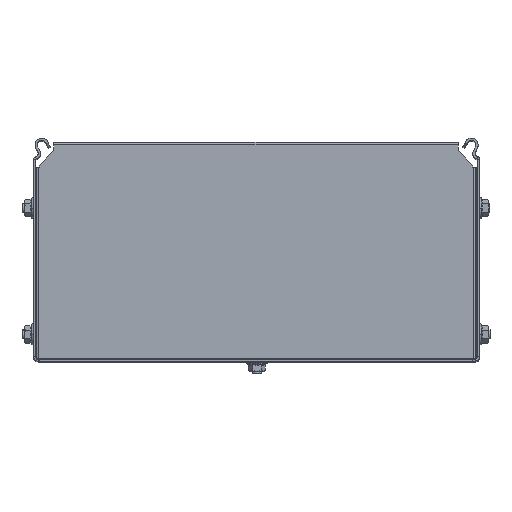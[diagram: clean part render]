
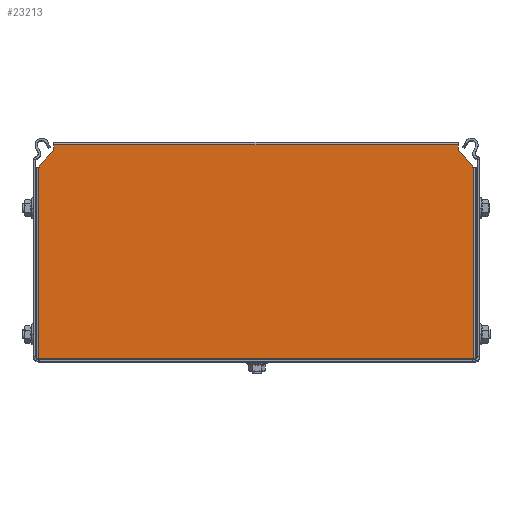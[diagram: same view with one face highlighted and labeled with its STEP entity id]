
A CAD part, top view. The second image highlights one B-rep face of the part: STEP entity #23213.
In plain terms, the highlighted planar face has unit normal (0, 0, 1) as drawn and (0, 0, -1) by its records, which use the part's own axes.
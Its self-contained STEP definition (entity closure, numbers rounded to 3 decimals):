
#35 = EDGE_LOOP ( 'NONE', ( #8196, #18314, #18529, #16453, #8886, #5079, #6379, #1964, #15107, #1273, #22720, #2898, #9541, #23069, #879, #7709 ) ) ;
#190 = DIRECTION ( 'NONE',  ( 0., -1., 0. ) ) ;
#223 = VERTEX_POINT ( 'NONE', #17630 ) ;
#255 = VERTEX_POINT ( 'NONE', #22700 ) ;
#478 = CARTESIAN_POINT ( 'NONE',  ( 281.91, 175.47, 0. ) ) ;
#500 = CARTESIAN_POINT ( 'NONE',  ( 0., 131.72, 0. ) ) ;
#511 = DIRECTION ( 'NONE',  ( 0., 1., 0. ) ) ;
#639 = VECTOR ( 'NONE', #10130, 1000. ) ;
#879 = ORIENTED_EDGE ( 'NONE', *, *, #13830, .F. ) ;
#885 = CARTESIAN_POINT ( 'NONE',  ( 291.91, 131.72, 0. ) ) ;
#1005 = VERTEX_POINT ( 'NONE', #10743 ) ;
#1112 = LINE ( 'NONE', #6259, #11071 ) ;
#1273 = ORIENTED_EDGE ( 'NONE', *, *, #17318, .F. ) ;
#1728 = EDGE_CURVE ( 'NONE', #20100, #2352, #23543, .T. ) ;
#1964 = ORIENTED_EDGE ( 'NONE', *, *, #4885, .F. ) ;
#2352 = VERTEX_POINT ( 'NONE', #16965 ) ;
#2651 = LINE ( 'NONE', #500, #7916 ) ;
#2845 = VECTOR ( 'NONE', #23074, 1000. ) ;
#2898 = ORIENTED_EDGE ( 'NONE', *, *, #6683, .F. ) ;
#2960 = VERTEX_POINT ( 'NONE', #19698 ) ;
#3246 = VERTEX_POINT ( 'NONE', #885 ) ;
#3469 = VERTEX_POINT ( 'NONE', #3506 ) ;
#3506 = CARTESIAN_POINT ( 'NONE',  ( 0., 1.06, 0. ) ) ;
#4616 = CARTESIAN_POINT ( 'NONE',  ( 291.91, 130.47, 0. ) ) ;
#4885 = EDGE_CURVE ( 'NONE', #223, #5189, #14028, .T. ) ;
#5041 = DIRECTION ( 'NONE',  ( -1., 0., 0. ) ) ;
#5072 = DIRECTION ( 'NONE',  ( 1., 0., 0. ) ) ;
#5079 = ORIENTED_EDGE ( 'NONE', *, *, #14181, .F. ) ;
#5189 = VERTEX_POINT ( 'NONE', #9340 ) ;
#5485 = VECTOR ( 'NONE', #20542, 1000. ) ;
#5648 = LINE ( 'NONE', #21980, #639 ) ;
#5889 = EDGE_CURVE ( 'NONE', #1005, #3469, #22628, .T. ) ;
#6259 = CARTESIAN_POINT ( 'NONE',  ( 291.91, 0., 0. ) ) ;
#6263 = AXIS2_PLACEMENT_3D ( 'NONE', #12922, #16899, #5041 ) ;
#6379 = ORIENTED_EDGE ( 'NONE', *, *, #8861, .F. ) ;
#6683 = EDGE_CURVE ( 'NONE', #2960, #3246, #13308, .T. ) ;
#6831 = VECTOR ( 'NONE', #13722, 1000. ) ;
#7029 = EDGE_CURVE ( 'NONE', #2352, #8617, #15154, .T. ) ;
#7709 = ORIENTED_EDGE ( 'NONE', *, *, #19155, .F. ) ;
#7916 = VECTOR ( 'NONE', #16360, 1000. ) ;
#8196 = ORIENTED_EDGE ( 'NONE', *, *, #21636, .F. ) ;
#8240 = DIRECTION ( 'NONE',  ( 0., -1., 0. ) ) ;
#8345 = CARTESIAN_POINT ( 'NONE',  ( 0., 131.72, 0. ) ) ;
#8617 = VERTEX_POINT ( 'NONE', #17504 ) ;
#8861 = EDGE_CURVE ( 'NONE', #5189, #20639, #2651, .T. ) ;
#8886 = ORIENTED_EDGE ( 'NONE', *, *, #1728, .F. ) ;
#9235 = LINE ( 'NONE', #478, #24414 ) ;
#9290 = LINE ( 'NONE', #13183, #25077 ) ;
#9340 = CARTESIAN_POINT ( 'NONE',  ( 10., 141.72, 0. ) ) ;
#9426 = CARTESIAN_POINT ( 'NONE',  ( 0., 130.47, 0. ) ) ;
#9512 = DIRECTION ( 'NONE',  ( 0., -1., 0. ) ) ;
#9541 = ORIENTED_EDGE ( 'NONE', *, *, #23115, .F. ) ;
#9759 = CARTESIAN_POINT ( 'NONE',  ( 0., 1.25, 0. ) ) ;
#9890 = VECTOR ( 'NONE', #9512, 1000. ) ;
#10006 = VERTEX_POINT ( 'NONE', #13050 ) ;
#10091 = CARTESIAN_POINT ( 'NONE',  ( 292.35, 1.25, 0. ) ) ;
#10130 = DIRECTION ( 'NONE',  ( 1., 0., 0. ) ) ;
#10743 = CARTESIAN_POINT ( 'NONE',  ( 0., 1.25, 0. ) ) ;
#10774 = LINE ( 'NONE', #4616, #5485 ) ;
#10803 = VECTOR ( 'NONE', #5072, 1000. ) ;
#10919 = CARTESIAN_POINT ( 'NONE',  ( 281.91, 141.72, 0. ) ) ;
#11071 = VECTOR ( 'NONE', #14076, 1000. ) ;
#12020 = EDGE_CURVE ( 'NONE', #3246, #20452, #23683, .T. ) ;
#12397 = CARTESIAN_POINT ( 'NONE',  ( 291.91, 130.47, 0. ) ) ;
#12922 = CARTESIAN_POINT ( 'NONE',  ( 0., 1.25, 0. ) ) ;
#13050 = CARTESIAN_POINT ( 'NONE',  ( 291.91, 1.06, 0. ) ) ;
#13083 = VECTOR ( 'NONE', #25589, 1000. ) ;
#13183 = CARTESIAN_POINT ( 'NONE',  ( -45., 1.25, 0. ) ) ;
#13308 = LINE ( 'NONE', #12397, #23215 ) ;
#13457 = DIRECTION ( 'NONE',  ( -1., 0., 0. ) ) ;
#13627 = VECTOR ( 'NONE', #13457, 1000. ) ;
#13630 = DIRECTION ( 'NONE',  ( -0.707, 0.707, 0. ) ) ;
#13722 = DIRECTION ( 'NONE',  ( 0., -1., 0. ) ) ;
#13735 = CARTESIAN_POINT ( 'NONE',  ( 0., 1.06, 0. ) ) ;
#13766 = VECTOR ( 'NONE', #13630, 1000. ) ;
#13830 = EDGE_CURVE ( 'NONE', #23102, #14487, #5648, .T. ) ;
#14028 = LINE ( 'NONE', #22088, #14646 ) ;
#14076 = DIRECTION ( 'NONE',  ( 0., 1., 0. ) ) ;
#14167 = FACE_OUTER_BOUND ( 'NONE', #35, .T. ) ;
#14181 = EDGE_CURVE ( 'NONE', #20639, #20100, #23284, .T. ) ;
#14235 = LINE ( 'NONE', #10091, #18847 ) ;
#14302 = VERTEX_POINT ( 'NONE', #15466 ) ;
#14359 = DIRECTION ( 'NONE',  ( 0., 1., 0. ) ) ;
#14487 = VERTEX_POINT ( 'NONE', #20212 ) ;
#14646 = VECTOR ( 'NONE', #8240, 1000. ) ;
#15107 = ORIENTED_EDGE ( 'NONE', *, *, #22608, .T. ) ;
#15154 = LINE ( 'NONE', #23355, #9890 ) ;
#15466 = CARTESIAN_POINT ( 'NONE',  ( 292.35, 130.47, 0. ) ) ;
#16332 = EDGE_CURVE ( 'NONE', #8617, #1005, #9290, .T. ) ;
#16360 = DIRECTION ( 'NONE',  ( -0.707, -0.707, 0. ) ) ;
#16453 = ORIENTED_EDGE ( 'NONE', *, *, #7029, .F. ) ;
#16661 = LINE ( 'NONE', #20923, #10803 ) ;
#16899 = DIRECTION ( 'NONE',  ( 0., 0., -1. ) ) ;
#16965 = CARTESIAN_POINT ( 'NONE',  ( -0.44, 130.47, 0. ) ) ;
#17318 = EDGE_CURVE ( 'NONE', #20452, #255, #9235, .T. ) ;
#17504 = CARTESIAN_POINT ( 'NONE',  ( -0.44, 1.25, 0. ) ) ;
#17630 = CARTESIAN_POINT ( 'NONE',  ( 10., 145.66, 0. ) ) ;
#17802 = EDGE_CURVE ( 'NONE', #14302, #14487, #14235, .T. ) ;
#18314 = ORIENTED_EDGE ( 'NONE', *, *, #5889, .F. ) ;
#18529 = ORIENTED_EDGE ( 'NONE', *, *, #16332, .F. ) ;
#18797 = PLANE ( 'NONE',  #6263 ) ;
#18847 = VECTOR ( 'NONE', #190, 1000. ) ;
#19076 = CARTESIAN_POINT ( 'NONE',  ( 0., 131.72, 0. ) ) ;
#19155 = EDGE_CURVE ( 'NONE', #10006, #23102, #1112, .T. ) ;
#19698 = CARTESIAN_POINT ( 'NONE',  ( 291.91, 130.47, 0. ) ) ;
#20100 = VERTEX_POINT ( 'NONE', #9426 ) ;
#20212 = CARTESIAN_POINT ( 'NONE',  ( 292.35, 1.25, 0. ) ) ;
#20452 = VERTEX_POINT ( 'NONE', #10919 ) ;
#20542 = DIRECTION ( 'NONE',  ( -1., 0., 0. ) ) ;
#20639 = VERTEX_POINT ( 'NONE', #8345 ) ;
#20923 = CARTESIAN_POINT ( 'NONE',  ( 0., 145.66, 0. ) ) ;
#21584 = CARTESIAN_POINT ( 'NONE',  ( 281.91, 141.72, 0. ) ) ;
#21636 = EDGE_CURVE ( 'NONE', #3469, #10006, #22979, .T. ) ;
#21980 = CARTESIAN_POINT ( 'NONE',  ( 336.91, 1.25, 0. ) ) ;
#22088 = CARTESIAN_POINT ( 'NONE',  ( 10., 141.72, 0. ) ) ;
#22445 = CARTESIAN_POINT ( 'NONE',  ( 291.91, 1.25, 0. ) ) ;
#22608 = EDGE_CURVE ( 'NONE', #223, #255, #16661, .T. ) ;
#22628 = LINE ( 'NONE', #9759, #6831 ) ;
#22700 = CARTESIAN_POINT ( 'NONE',  ( 281.91, 145.66, 0. ) ) ;
#22720 = ORIENTED_EDGE ( 'NONE', *, *, #12020, .F. ) ;
#22979 = LINE ( 'NONE', #13735, #13083 ) ;
#23069 = ORIENTED_EDGE ( 'NONE', *, *, #17802, .T. ) ;
#23074 = DIRECTION ( 'NONE',  ( 0., -1., 0. ) ) ;
#23102 = VERTEX_POINT ( 'NONE', #22445 ) ;
#23115 = EDGE_CURVE ( 'NONE', #14302, #2960, #10774, .T. ) ;
#23213 = ADVANCED_FACE ( 'NONE', ( #14167 ), #18797, .T. ) ;
#23215 = VECTOR ( 'NONE', #511, 1000. ) ;
#23284 = LINE ( 'NONE', #19076, #2845 ) ;
#23355 = CARTESIAN_POINT ( 'NONE',  ( -0.44, 1.25, 0. ) ) ;
#23543 = LINE ( 'NONE', #25316, #13627 ) ;
#23683 = LINE ( 'NONE', #21584, #13766 ) ;
#24414 = VECTOR ( 'NONE', #14359, 1000. ) ;
#25030 = DIRECTION ( 'NONE',  ( 1., 0., 0. ) ) ;
#25077 = VECTOR ( 'NONE', #25030, 1000. ) ;
#25316 = CARTESIAN_POINT ( 'NONE',  ( 0., 130.47, 0. ) ) ;
#25589 = DIRECTION ( 'NONE',  ( 1., 0., 0. ) ) ;
